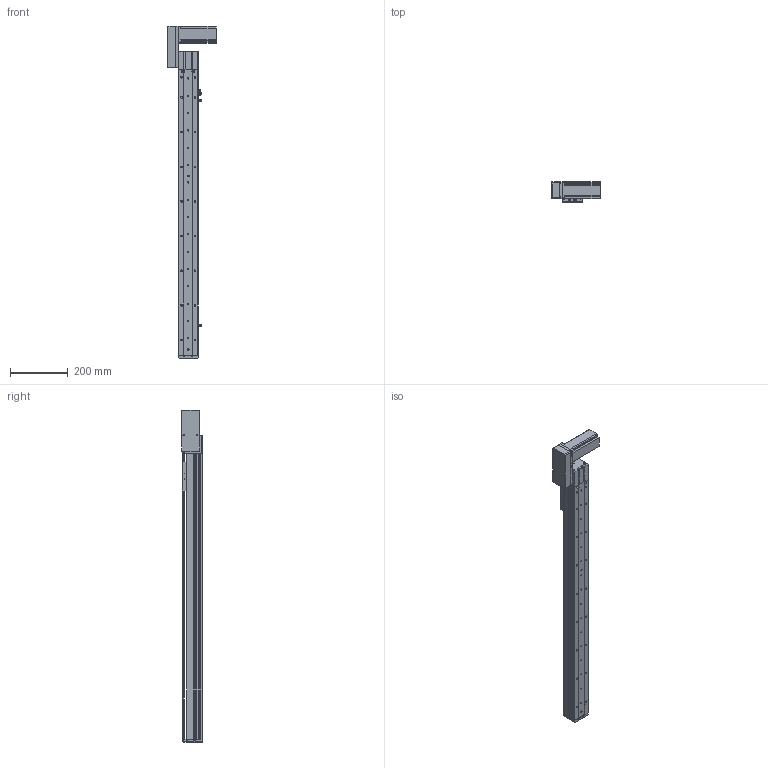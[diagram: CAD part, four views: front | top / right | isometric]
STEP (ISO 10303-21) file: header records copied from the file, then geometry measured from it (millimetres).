
FILE_DESCRIPTION (( 'STEP AP214' ), '1' );
FILE_NAME ('KSD68BS-S800-MRB-CM.STEP', '2019-08-22T05:59:42', ( '微软用户' ), ( '微软中国' ), 'SwSTEP 2.0', 'SolidWorks 2014', '' );
FILE_SCHEMA (( 'AUTOMOTIVE_DESIGN' ));
Length unit declared in the file: millimetre
Products named in the file (11): U倰嫖萇EEㄜSX672; 台达ECMA－C20604AS伺服电机（400W); KSD68BS 800俴最菁啣圉猾敕; KSD68BS-S800-MRB-CM; 悵誘欶奻狟殏; 68宽马达安装板连板上折同步带; 68宽单导轨半封闭同步带主动轮座右; 68单导轨同步带半封闭端板; KSD68BS 800俴最裔啣圉猾敕; 覜茼え68遵圉猾敕; KSD68BS半封闭同步带传动导轨座
Assembly tree (12 placements, depth 2):
  KSD68BS-S800-MRB-CM
    KSD68BS 800俴最菁啣圉猾敕
    台达ECMA－C20604AS伺服电机（400W)
    U倰嫖萇EEㄜSX672  x3
    KSD68BS半封闭同步带传动导轨座
    覜茼え68遵圉猾敕
    KSD68BS 800俴最裔啣圉猾敕
    68单导轨同步带半封闭端板
    68宽单导轨半封闭同步带主动轮座右
    68宽马达安装板连板上折同步带
    悵誘欶奻狟殏
Bounding box: 167.2 x 70.5 x 1149.5 mm (x, y, z)
Volume: 2117984.4 mm3; surface area: 729094.2 mm2
Topology: 13 solids, 13 shells, 1370 faces, 3932 edges, 2556 vertices
Faces by surface type: cylinder 682, plane 605, cone 83
Entity records: 50265 total; most frequent: CARTESIAN_POINT 9562, ORIENTED_EDGE 6616, DIRECTION 6544, EDGE_CURVE 3308, AXIS2_PLACEMENT_3D 2346, VERTEX_POINT 2180, VECTOR 1852, LINE 1852
